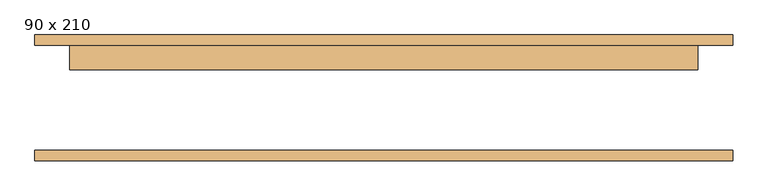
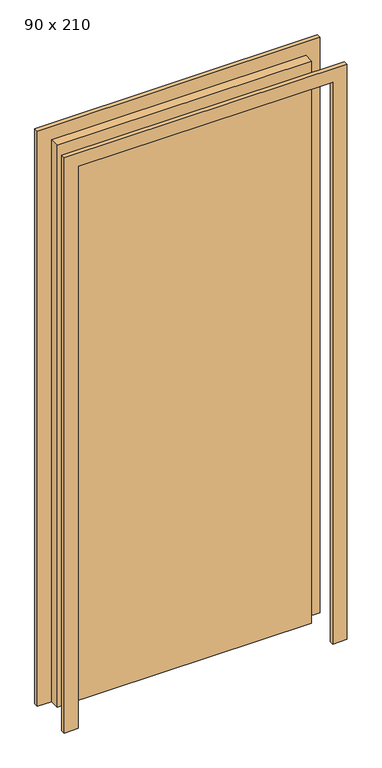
"""IFC4 building model written with IfcOpenShell, lengths in millimetres: door geometry, M_Descarga simples : 90 x 210."""

from ifc_helpers import new_model, si_unit, frame, origin, origin_with_axes, place, context, project, spatial, polyline, outline, extrude, source, transform, mapped, element, save


def door_90_x_210_ee935524(model_context):
    return source(origin(), model_context, "Body", "SweptSolid", [
        extrude(outline(polyline([(2150.0, -500.0), (0.0, -500.0), (0.0, -450.0), (2100.0, -450.0), (2100.0, 450.0), (0.0, 450.0), (0.0, 500.0), (2150.0, 500.0), (2150.0, -500.0)])), frame((0.0, 75.0, 0.0), z_axis=(0.0, 1.0, 0.0), x_axis=(0.0, 0.0, 1.0)), (0.0, 0.0, 1.0), 15.0),
        extrude(outline(polyline([(2150.0, 500.0), (2150.0, -500.0), (0.0, -500.0), (0.0, -450.0), (2100.0, -450.0), (2100.0, 450.0), (0.0, 450.0), (0.0, 500.0), (2150.0, 500.0)])), frame((0.0, -90.0, 0.0), z_axis=(0.0, 1.0, 0.0), x_axis=(0.0, 0.0, 1.0)), (0.0, 0.0, 1.0), 15.0),
        extrude(outline(polyline([(450.0, 40.0), (-450.0, 40.0), (-450.0, 75.0), (450.0, 75.0), (450.0, 40.0)])), origin_with_axes(), (0.0, 0.0, 1.0), 2100.0),
    ])


if __name__ == "__main__":
    model = new_model("IFC4")
    model_context = context("Model", 3, world=origin())
    ifc_project = project(units=[si_unit("LENGTHUNIT", "METRE", prefix="MILLI")], contexts=[model_context])
    site = spatial("IfcSite", under=ifc_project)
    building = spatial("IfcBuilding", under=site)
    placement = place(None, origin())
    door_90_x_210_shape = door_90_x_210_ee935524(model_context)
    element("IfcDoor", 1, ObjectType="M_Descarga simples : 90 x 210", at=placement, inside=building, context=model_context, shape_type="MappedRepresentation", body=[
        mapped(door_90_x_210_shape, transform((0.0, 0.0, 0.0), x_axis=(1.0, 0.0, 0.0), y_axis=(0.0, 1.0, 0.0), z_axis=(0.0, 0.0, 1.0))),
    ])
    save(model, "model.ifc")
